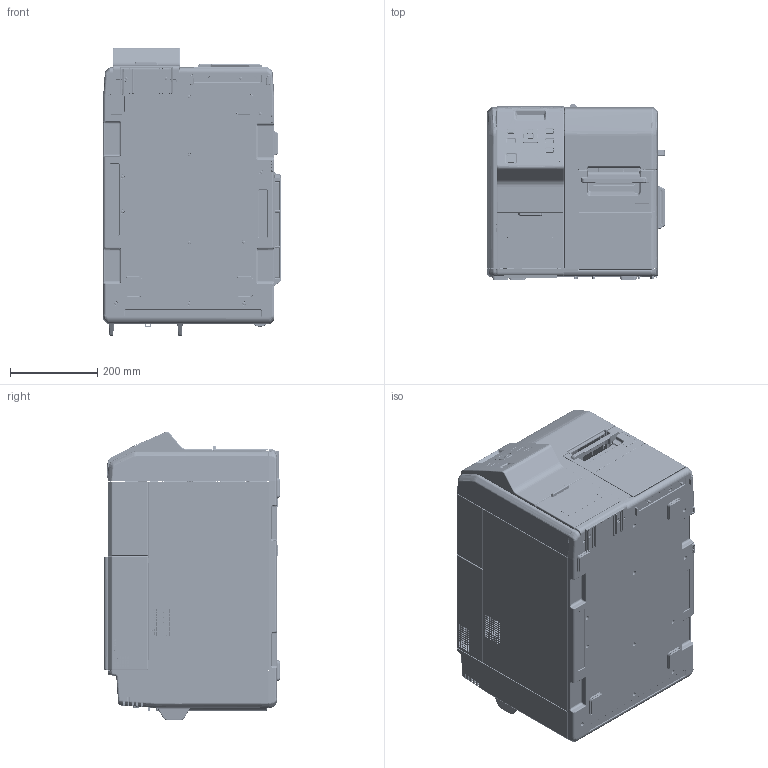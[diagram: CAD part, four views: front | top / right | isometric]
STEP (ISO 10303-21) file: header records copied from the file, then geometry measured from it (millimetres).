
FILE_DESCRIPTION((''),'2;1');
FILE_NAME('APPEAR_HANSHA_C7500_CLOSE_SW','2025-04-30T16:08:18',('5011256'),(''),'CREO PARAMETRIC BY PTC INC, 2021184','CREO PARAMETRIC BY PTC INC, 2021184','');
FILE_SCHEMA(('AUTOMOTIVE_DESIGN { 1 0 10303 214 1 1 1 1 }'));
Products named in the file (1): APPEAR_HANSHA_C7500_CLOSE_SW
Bounding box: 406.93 x 403.5 x 659.73 mm (x, y, z)
Surface area: 3640510.9 mm2 (no closed solid volume)
Topology: 0 solids, 382 shells, 12275 faces, 40402 edges, 27238 vertices
Faces by surface type: plane 5434, cylinder 4303, bspline 1111, torus 661, sphere 415, cone 300, extrusion 51
Entity records: 622572 total; most frequent: CARTESIAN_POINT 278630, DIRECTION 70472, ORIENTED_EDGE 68361, EDGE_CURVE 40083, VERTEX_POINT 27238, AXIS2_PLACEMENT_3D 24048, VECTOR 22376, LINE 22325
